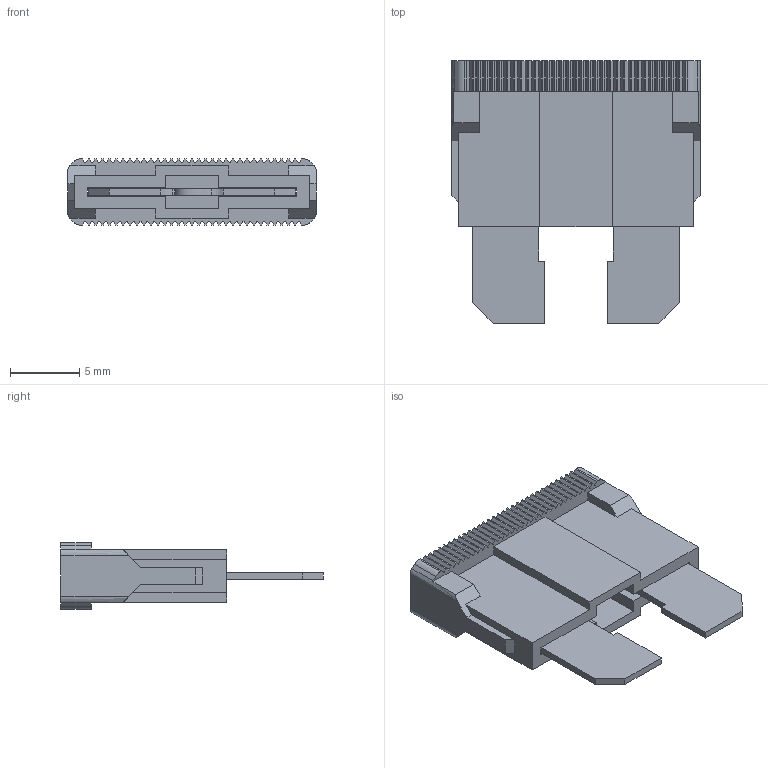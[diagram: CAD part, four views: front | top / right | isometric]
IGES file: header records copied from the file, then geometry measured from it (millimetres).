
Start section: SolidWorks IGES file using analytic representation for surfaces
Global section: file name: E:\[projects]\_3D-solidworks\LED BLOCK-10Wx12plus\fuse-automotive-10a.IGS; native system: SolidWorks 2017; preprocessor: SolidWorks 2017; author: Shroamer; date: 180519.164820; units: millimetre
Bounding box: 18 x 19 x 4.8 mm (x, y, z)
Surface area: 1518.9 mm2 (no closed solid volume)
Topology: 0 solids, 0 shells, 373 faces, 2384 edges, 2384 vertices
Faces by surface type: bspline 361, revolution 12
